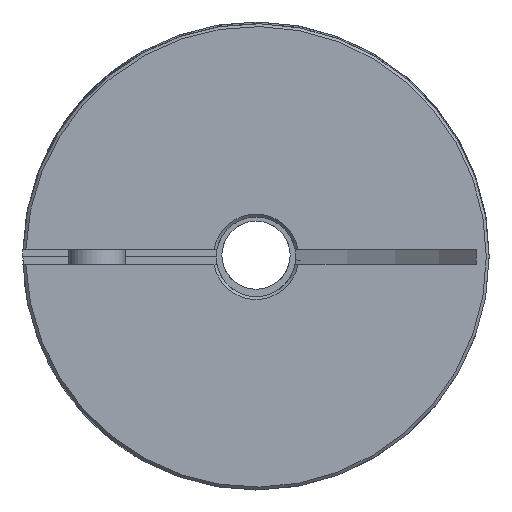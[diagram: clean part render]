
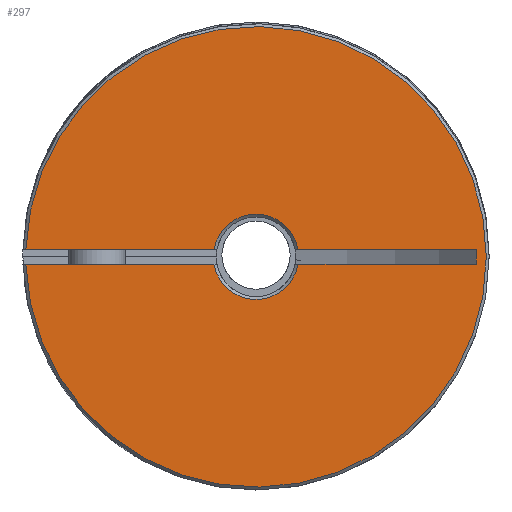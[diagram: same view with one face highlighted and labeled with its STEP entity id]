
A CAD part, left-side view. The second image highlights one B-rep face of the part: STEP entity #297.
In plain terms, the highlighted planar face has unit normal (-1, 0, 0).
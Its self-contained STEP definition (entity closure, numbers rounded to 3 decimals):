
#297 = ADVANCED_FACE( 'NONE', ( #662 ), #663, .F. );
#662 = FACE_OUTER_BOUND( '', #1203, .T. );
#663 = PLANE( '', #1204 );
#1203 = EDGE_LOOP( '', ( #1803, #1804, #1805, #1806, #1807, #1808, #1809, #1810 ) );
#1204 = AXIS2_PLACEMENT_3D( '', #1811, #1812, #1813 );
#1803 = ORIENTED_EDGE( '', *, *, #3002, .T. );
#1804 = ORIENTED_EDGE( '', *, *, #2931, .T. );
#1805 = ORIENTED_EDGE( '', *, *, #3003, .T. );
#1806 = ORIENTED_EDGE( '', *, *, #3004, .T. );
#1807 = ORIENTED_EDGE( '', *, *, #3005, .F. );
#1808 = ORIENTED_EDGE( '', *, *, #3006, .T. );
#1809 = ORIENTED_EDGE( '', *, *, #2997, .F. );
#1810 = ORIENTED_EDGE( '', *, *, #3007, .T. );
#1811 = CARTESIAN_POINT( '', ( 0., 7., 0. ) );
#1812 = DIRECTION( '', ( 1., 0., 0. ) );
#1813 = DIRECTION( '', ( 0., 1., 0. ) );
#2931 = EDGE_CURVE( 'NONE', #3402, #3399, #3403, .T. );
#2997 = EDGE_CURVE( 'NONE', #3527, #3528, #3529, .F. );
#3002 = EDGE_CURVE( 'NONE', #3536, #3402, #3537, .T. );
#3003 = EDGE_CURVE( 'NONE', #3399, #3538, #3539, .T. );
#3004 = EDGE_CURVE( 'NONE', #3538, #3540, #3541, .F. );
#3005 = EDGE_CURVE( 'NONE', #3542, #3540, #3543, .F. );
#3006 = EDGE_CURVE( 'NONE', #3542, #3528, #3544, .T. );
#3007 = EDGE_CURVE( 'NONE', #3527, #3536, #3545, .T. );
#3399 = VERTEX_POINT( 'NONE', #4082 );
#3402 = VERTEX_POINT( 'NONE', #4088 );
#3403 = CIRCLE( '', #4089, 7.5 );
#3527 = VERTEX_POINT( 'NONE', #4284 );
#3528 = VERTEX_POINT( 'NONE', #4285 );
#3529 = LINE( '', #4286, #4287 );
#3536 = VERTEX_POINT( 'NONE', #4298 );
#3537 = LINE( '', #4299, #4300 );
#3538 = VERTEX_POINT( 'NONE', #4301 );
#3539 = LINE( '', #4302, #4303 );
#3540 = VERTEX_POINT( 'NONE', #4304 );
#3541 = CIRCLE( '', #4305, 40.5 );
#3542 = VERTEX_POINT( 'NONE', #4306 );
#3543 = LINE( '', #4307, #4308 );
#3544 = CIRCLE( '', #4309, 7.5 );
#3545 = LINE( '', #4310, #4311 );
#4082 = CARTESIAN_POINT( '', ( 0., 1.3, 7.386 ) );
#4088 = CARTESIAN_POINT( '', ( 0., 1.3, -7.386 ) );
#4089 = AXIS2_PLACEMENT_3D( '', #5218, #5219, #5220 );
#4284 = CARTESIAN_POINT( '', ( 0., -1.3, -38.697 ) );
#4285 = CARTESIAN_POINT( '', ( 0., -1.3, -7.386 ) );
#4286 = CARTESIAN_POINT( '', ( 0., -1.3, 11. ) );
#4287 = VECTOR( '', #5390, 1000. );
#4298 = CARTESIAN_POINT( '', ( 0., 1.3, -38.697 ) );
#4299 = CARTESIAN_POINT( '', ( 0., 1.3, 0. ) );
#4300 = VECTOR( '', #5395, 1000. );
#4301 = CARTESIAN_POINT( '', ( 0., 1.3, 40.479 ) );
#4302 = CARTESIAN_POINT( '', ( 0., 1.3, 0. ) );
#4303 = VECTOR( '', #5396, 1000. );
#4304 = CARTESIAN_POINT( '', ( 0., -1.3, 40.479 ) );
#4305 = AXIS2_PLACEMENT_3D( '', #5397, #5398, #5399 );
#4306 = CARTESIAN_POINT( '', ( 0., -1.3, 7.386 ) );
#4307 = CARTESIAN_POINT( '', ( 0., -1.3, 11. ) );
#4308 = VECTOR( '', #5400, 1000. );
#4309 = AXIS2_PLACEMENT_3D( '', #5401, #5402, #5403 );
#4310 = CARTESIAN_POINT( '', ( 0., -1.3, -38.697 ) );
#4311 = VECTOR( '', #5404, 1000. );
#5218 = CARTESIAN_POINT( '', ( 0., 0., 0. ) );
#5219 = DIRECTION( '', ( 1., 0., 0. ) );
#5220 = DIRECTION( '', ( 0., 0., -1. ) );
#5390 = DIRECTION( '', ( 0., 0., -1. ) );
#5395 = DIRECTION( '', ( 0., 0., 1. ) );
#5396 = DIRECTION( '', ( 0., 0., 1. ) );
#5397 = CARTESIAN_POINT( '', ( 0., 0., 0. ) );
#5398 = DIRECTION( '', ( 1., 0., 0. ) );
#5399 = DIRECTION( '', ( 0., 0., -1. ) );
#5400 = DIRECTION( '', ( 0., 0., -1. ) );
#5401 = CARTESIAN_POINT( '', ( 0., 0., 0. ) );
#5402 = DIRECTION( '', ( 1., 0., 0. ) );
#5403 = DIRECTION( '', ( 0., 0., -1. ) );
#5404 = DIRECTION( '', ( 0., 1., 0. ) );
